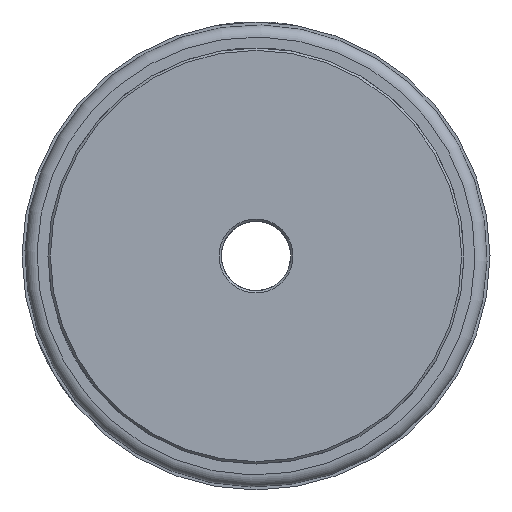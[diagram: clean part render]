
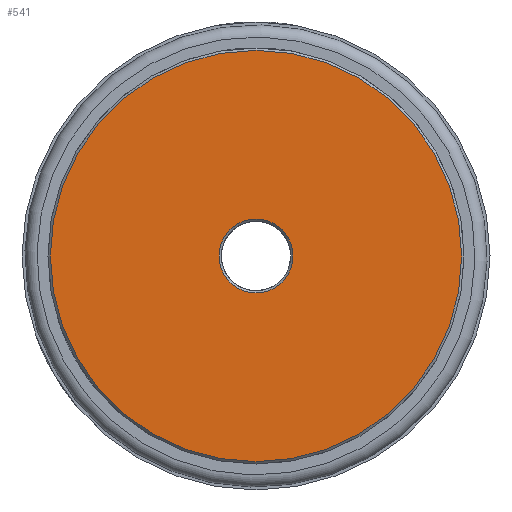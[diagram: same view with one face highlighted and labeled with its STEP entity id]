
A CAD part, left-side view. The second image highlights one B-rep face of the part: STEP entity #541.
In plain terms, the highlighted planar face has unit normal (-1, 0, 0).
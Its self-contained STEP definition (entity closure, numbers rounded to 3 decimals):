
#541 = ADVANCED_FACE( 'NONE', ( #1131, #1132 ), #1133, .F. );
#1131 = FACE_OUTER_BOUND( '', #1771, .T. );
#1132 = FACE_BOUND( '', #1772, .T. );
#1133 = PLANE( '', #1773 );
#1771 = EDGE_LOOP( '', ( #2803 ) );
#1772 = EDGE_LOOP( '', ( #2804 ) );
#1773 = AXIS2_PLACEMENT_3D( '', #2805, #2806, #2807 );
#2803 = ORIENTED_EDGE( '', *, *, #3582, .T. );
#2804 = ORIENTED_EDGE( '', *, *, #3279, .T. );
#2805 = CARTESIAN_POINT( '', ( 0., 18., 0. ) );
#2806 = DIRECTION( '', ( 1., 0., 0. ) );
#2807 = DIRECTION( '', ( 0., 1., 0. ) );
#3279 = EDGE_CURVE( 'NONE', #3786, #3786, #3787, .T. );
#3582 = EDGE_CURVE( 'NONE', #4240, #4240, #4241, .F. );
#3786 = VERTEX_POINT( '', #4588 );
#3787 = CIRCLE( '', #4589, 3.2 );
#4240 = VERTEX_POINT( '', #5347 );
#4241 = CIRCLE( '', #5348, 17.8 );
#4588 = CARTESIAN_POINT( '', ( 0., 0., -3.2 ) );
#4589 = AXIS2_PLACEMENT_3D( '', #5564, #5565, #5566 );
#5347 = CARTESIAN_POINT( '', ( 0., 0., -17.8 ) );
#5348 = AXIS2_PLACEMENT_3D( '', #6050, #6051, #6052 );
#5564 = CARTESIAN_POINT( '', ( 0., 0., 0. ) );
#5565 = DIRECTION( '', ( 1., 0., 0. ) );
#5566 = DIRECTION( '', ( 0., 0., -1. ) );
#6050 = CARTESIAN_POINT( '', ( 0., 0., 0. ) );
#6051 = DIRECTION( '', ( 1., 0., 0. ) );
#6052 = DIRECTION( '', ( 0., 0., -1. ) );
